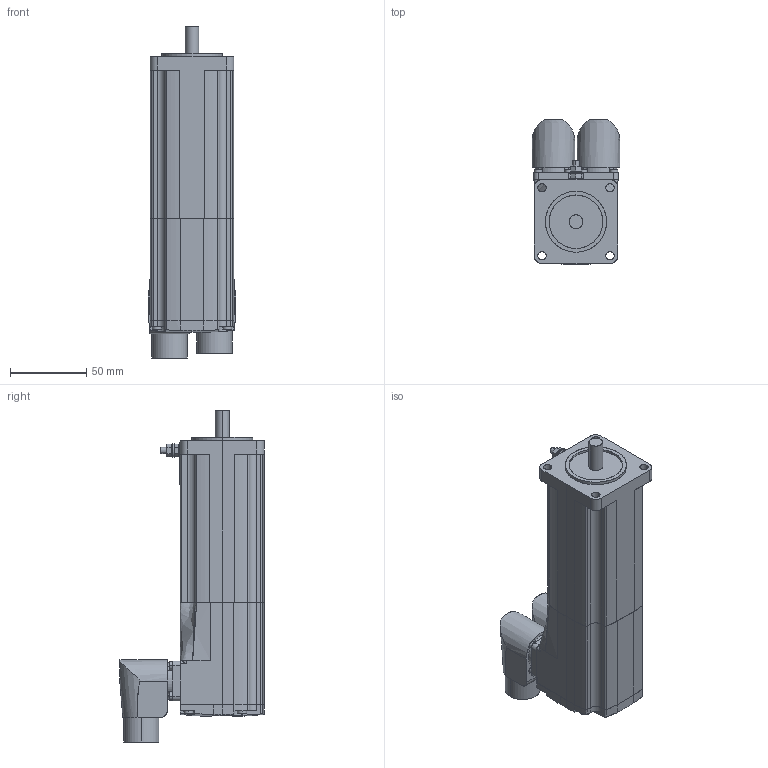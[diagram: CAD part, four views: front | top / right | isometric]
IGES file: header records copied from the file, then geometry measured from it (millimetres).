
Start section: SolidWorks IGES file using analytic representation for surfaces
Global section: file name: C:\PDM\SW-SAP\AA-IGES\SH30552x0xF2100.IGS; native system: SolidWorks 2010; preprocessor: SolidWorks 2010; author: SESA21951; date: 131129.082207; units: millimetre
Bounding box: 57.5 x 94.5 x 217.45 mm (x, y, z)
Surface area: 72203.2 mm2 (no closed solid volume)
Topology: 0 solids, 0 shells, 400 faces, 6040 edges, 6038 vertices
Faces by surface type: revolution 202, bspline 198
